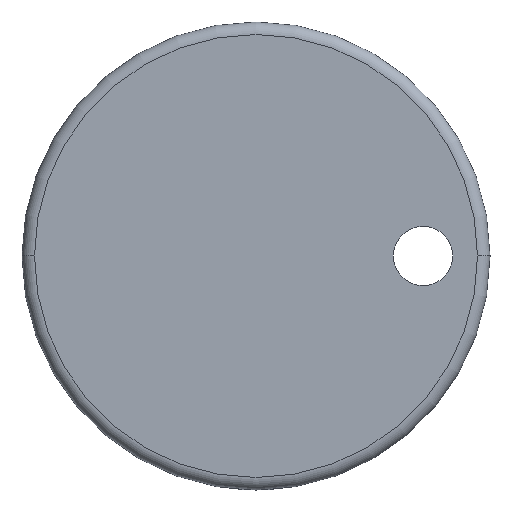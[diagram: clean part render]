
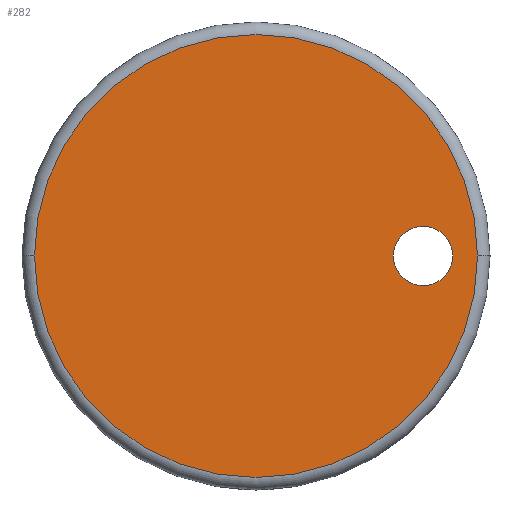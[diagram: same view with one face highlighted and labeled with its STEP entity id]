
A CAD part, front view. The second image highlights one B-rep face of the part: STEP entity #282.
In plain terms, the highlighted planar face has unit normal (0, -1, 0).
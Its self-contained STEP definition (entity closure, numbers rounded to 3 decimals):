
#23=CARTESIAN_POINT('',(0.,0.,0.));
#24=DIRECTION('',(0.,-1.,0.));
#25=DIRECTION('',(1.,0.,0.));
#26=AXIS2_PLACEMENT_3D('',#23,#24,#25);
#28=CARTESIAN_POINT('',(0.,0.,0.));
#29=DIRECTION('',(0.,-1.,0.));
#30=DIRECTION('',(-1.,0.,0.));
#31=AXIS2_PLACEMENT_3D('',#28,#29,#30);
#33=CARTESIAN_POINT('',(53.556,0.,0.));
#34=DIRECTION('',(0.,-1.,0.));
#35=DIRECTION('',(-1.,0.,0.));
#36=AXIS2_PLACEMENT_3D('',#33,#34,#35);
#38=CARTESIAN_POINT('',(53.556,0.,0.));
#39=DIRECTION('',(0.,-1.,0.));
#40=DIRECTION('',(1.,0.,0.));
#41=AXIS2_PLACEMENT_3D('',#38,#39,#40);
#237=CARTESIAN_POINT('',(71.,0.,0.));
#238=CARTESIAN_POINT('',(-71.,0.,0.));
#239=VERTEX_POINT('',#237);
#240=VERTEX_POINT('',#238);
#253=CARTESIAN_POINT('',(44.056,0.,0.));
#254=CARTESIAN_POINT('',(63.056,0.,0.));
#255=VERTEX_POINT('',#253);
#256=VERTEX_POINT('',#254);
#265=CARTESIAN_POINT('',(0.,0.,0.));
#266=DIRECTION('',(0.,1.,0.));
#267=DIRECTION('',(1.,0.,0.));
#268=AXIS2_PLACEMENT_3D('',#265,#266,#267);
#269=PLANE('',#268);
#271=ORIENTED_EDGE('',*,*,#270,.F.);
#273=ORIENTED_EDGE('',*,*,#272,.F.);
#274=EDGE_LOOP('',(#271,#273));
#275=FACE_OUTER_BOUND('',#274,.F.);
#277=ORIENTED_EDGE('',*,*,#276,.T.);
#279=ORIENTED_EDGE('',*,*,#278,.T.);
#280=EDGE_LOOP('',(#277,#279));
#281=FACE_BOUND('',#280,.F.);
#282=ADVANCED_FACE('',(#275,#281),#269,.F.);
#27=CIRCLE('',#26,71.);
#32=CIRCLE('',#31,71.);
#37=CIRCLE('',#36,9.5);
#42=CIRCLE('',#41,9.5);
#270=EDGE_CURVE('',#239,#240,#27,.T.);
#272=EDGE_CURVE('',#240,#239,#32,.T.);
#276=EDGE_CURVE('',#255,#256,#37,.T.);
#278=EDGE_CURVE('',#256,#255,#42,.T.);
